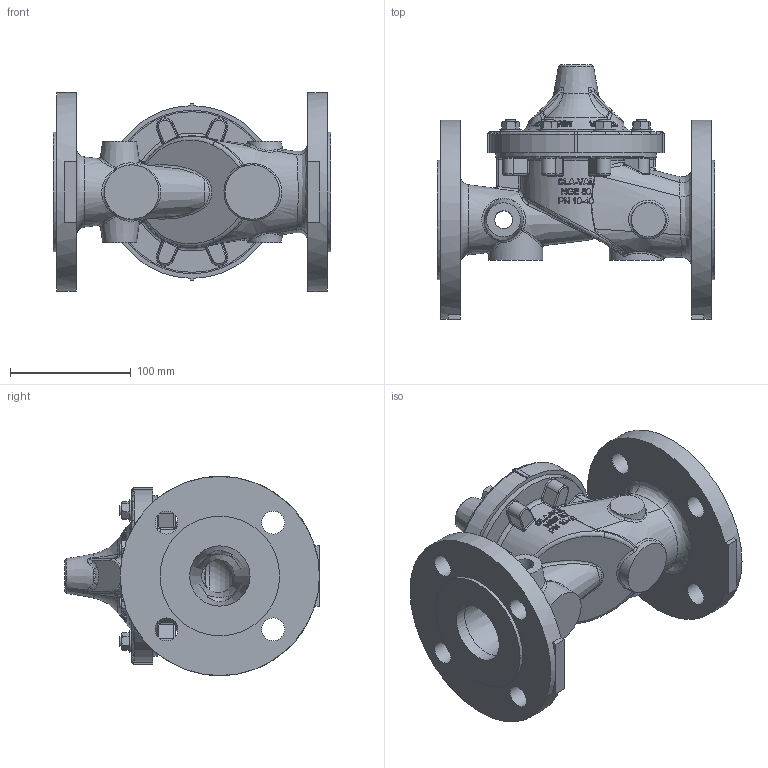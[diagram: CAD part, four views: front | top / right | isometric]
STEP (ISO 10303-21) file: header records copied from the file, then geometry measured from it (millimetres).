
FILE_DESCRIPTION(/* description */ (''),/* implementation_level */ '2;1');
FILE_NAME(/* name */ 'G:\Doc_Liberes\SymbolesCAD\Modeles_3D\FichierSTP\VanneDeBase\NGE050-40RF.stp',/* time_stamp */ '2023-08-17T10:00:05+02:00',/* author */ ('marc'),/* organization */ (''),/* preprocessor_version */ 'ST-DEVELOPER v18.1',/* originating_system */ 'Autodesk Inventor 2022',/* authorisation */ '');
FILE_SCHEMA (('AUTOMOTIVE_DESIGN { 1 0 10303 214 3 1 1 }'));
Products named in the file (1): NGE050-40RF_Simplifier_1
Bounding box: 230 x 211.15 x 165 mm (x, y, z)
Volume: 1285575.5 mm3; surface area: 279276 mm2
Topology: 1 solids, 1 shells, 1298 faces, 3334 edges, 2109 vertices
Faces by surface type: plane 512, bspline 325, cone 196, cylinder 195, torus 63, sphere 7
Full cylindrical faces by diameter (mm): 7.938 x16, 14.95 x2, 17.475 x8, 19 x8, 32 x1, 42.72 x1, 45 x2, 50 x2, 57.5 x1, 64.9 x1, 65 x1, 80 x1, 99 x2, 133.15 x1, 135.5 x1, 165 x2
Entity records: 65235 total; most frequent: CARTESIAN_POINT 37630, ORIENTED_EDGE 6656, DIRECTION 4588, EDGE_CURVE 3328, VERTEX_POINT 2109, AXIS2_PLACEMENT_3D 1853, EDGE_LOOP 1413, FACE_OUTER_BOUND 1298
